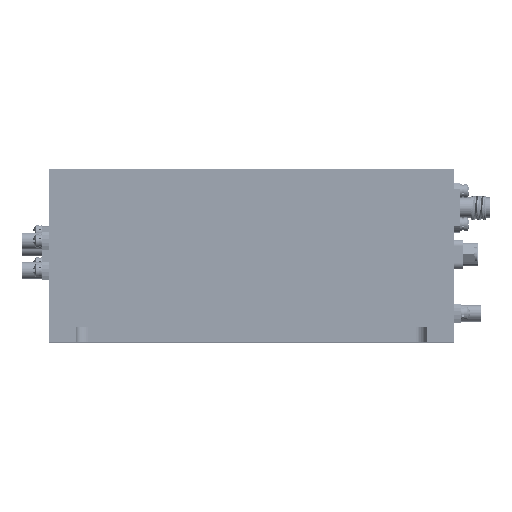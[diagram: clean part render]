
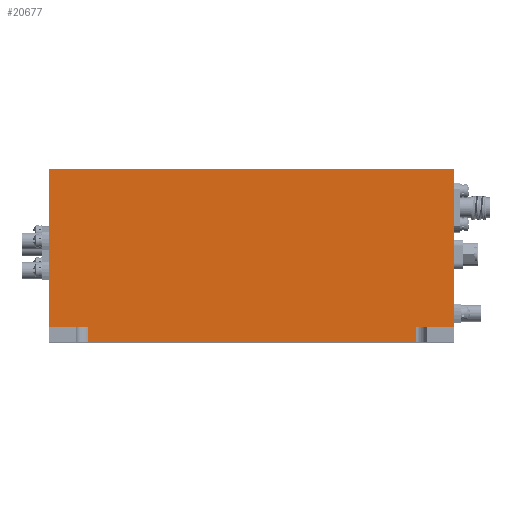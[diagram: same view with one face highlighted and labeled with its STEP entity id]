
A CAD part, top view. The second image highlights one B-rep face of the part: STEP entity #20677.
In plain terms, the highlighted planar face has unit normal (0, 0, 1).
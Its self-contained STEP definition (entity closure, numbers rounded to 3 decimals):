
#37 = CARTESIAN_POINT ( 'NONE',  ( 10., 0., -7. ) ) ;
#177 = VERTEX_POINT ( 'NONE', #18048 ) ;
#592 = DIRECTION ( 'NONE',  ( -1., 0., 0. ) ) ;
#1800 = VERTEX_POINT ( 'NONE', #19192 ) ;
#1804 = EDGE_CURVE ( 'NONE', #13800, #1800, #5766, .T. ) ;
#2056 = LINE ( 'NONE', #28406, #21170 ) ;
#3674 = DIRECTION ( 'NONE',  ( -1., 0., 0. ) ) ;
#3913 = CARTESIAN_POINT ( 'NONE',  ( 0., 4., -7. ) ) ;
#4035 = DIRECTION ( 'NONE',  ( -1., 0., 0. ) ) ;
#4654 = VECTOR ( 'NONE', #10200, 1000. ) ;
#4808 = DIRECTION ( 'NONE',  ( -1., 0., 0. ) ) ;
#4919 = ORIENTED_EDGE ( 'NONE', *, *, #22573, .T. ) ;
#5275 = CARTESIAN_POINT ( 'NONE',  ( 10., 4., -7. ) ) ;
#5766 = LINE ( 'NONE', #16463, #9320 ) ;
#5867 = AXIS2_PLACEMENT_3D ( 'NONE', #22313, #25059, #4035 ) ;
#6318 = LINE ( 'NONE', #3913, #25835 ) ;
#6760 = VECTOR ( 'NONE', #8984, 1000. ) ;
#7548 = VECTOR ( 'NONE', #592, 1000. ) ;
#7779 = ORIENTED_EDGE ( 'NONE', *, *, #18114, .T. ) ;
#8178 = CARTESIAN_POINT ( 'NONE',  ( 95., 0., -7. ) ) ;
#8480 = EDGE_CURVE ( 'NONE', #177, #18084, #2056, .T. ) ;
#8984 = DIRECTION ( 'NONE',  ( 0., 1., 0. ) ) ;
#9024 = LINE ( 'NONE', #22118, #7548 ) ;
#9320 = VECTOR ( 'NONE', #3674, 1000. ) ;
#9632 = CARTESIAN_POINT ( 'NONE',  ( 105., 4., -7. ) ) ;
#10200 = DIRECTION ( 'NONE',  ( 0., 1., 0. ) ) ;
#10224 = DIRECTION ( 'NONE',  ( 0., 1., 0. ) ) ;
#10328 = ORIENTED_EDGE ( 'NONE', *, *, #22751, .F. ) ;
#10563 = CARTESIAN_POINT ( 'NONE',  ( 0., 4., -7. ) ) ;
#11002 = EDGE_CURVE ( 'NONE', #12742, #1800, #6318, .T. ) ;
#11394 = VECTOR ( 'NONE', #10224, 1000. ) ;
#12742 = VERTEX_POINT ( 'NONE', #22900 ) ;
#13665 = CARTESIAN_POINT ( 'NONE',  ( 95., 4., -7. ) ) ;
#13757 = ORIENTED_EDGE ( 'NONE', *, *, #32326, .F. ) ;
#13800 = VERTEX_POINT ( 'NONE', #15620 ) ;
#14346 = CARTESIAN_POINT ( 'NONE',  ( 10., 0., -7. ) ) ;
#14457 = DIRECTION ( 'NONE',  ( 0., 1., 0. ) ) ;
#15620 = CARTESIAN_POINT ( 'NONE',  ( 105., 45., -7. ) ) ;
#15736 = LINE ( 'NONE', #37, #4654 ) ;
#16463 = CARTESIAN_POINT ( 'NONE',  ( 10., 45., -7. ) ) ;
#16742 = LINE ( 'NONE', #27229, #6760 ) ;
#18048 = CARTESIAN_POINT ( 'NONE',  ( 95., 0., -7. ) ) ;
#18084 = VERTEX_POINT ( 'NONE', #14346 ) ;
#18114 = EDGE_CURVE ( 'NONE', #28549, #13800, #16742, .T. ) ;
#18854 = VERTEX_POINT ( 'NONE', #5275 ) ;
#19192 = CARTESIAN_POINT ( 'NONE',  ( 0., 45., -7. ) ) ;
#20521 = FACE_OUTER_BOUND ( 'NONE', #29026, .T. ) ;
#20677 = ADVANCED_FACE ( 'NONE', ( #20521 ), #23268, .F. ) ;
#21170 = VECTOR ( 'NONE', #4808, 1000. ) ;
#22118 = CARTESIAN_POINT ( 'NONE',  ( 0., 4., -7. ) ) ;
#22313 = CARTESIAN_POINT ( 'NONE',  ( 10., 0., -7. ) ) ;
#22573 = EDGE_CURVE ( 'NONE', #177, #26439, #26262, .T. ) ;
#22583 = ORIENTED_EDGE ( 'NONE', *, *, #8480, .F. ) ;
#22751 = EDGE_CURVE ( 'NONE', #18854, #12742, #9024, .T. ) ;
#22900 = CARTESIAN_POINT ( 'NONE',  ( 0., 4., -7. ) ) ;
#23126 = DIRECTION ( 'NONE',  ( 1., 0., 0. ) ) ;
#23268 = PLANE ( 'NONE',  #5867 ) ;
#24457 = ORIENTED_EDGE ( 'NONE', *, *, #1804, .T. ) ;
#25059 = DIRECTION ( 'NONE',  ( 0., 0., -1. ) ) ;
#25835 = VECTOR ( 'NONE', #14457, 1000. ) ;
#26262 = LINE ( 'NONE', #8178, #11394 ) ;
#26418 = LINE ( 'NONE', #10563, #28880 ) ;
#26439 = VERTEX_POINT ( 'NONE', #13665 ) ;
#27229 = CARTESIAN_POINT ( 'NONE',  ( 105., 4., -7. ) ) ;
#28406 = CARTESIAN_POINT ( 'NONE',  ( 10., 0., -7. ) ) ;
#28549 = VERTEX_POINT ( 'NONE', #9632 ) ;
#28880 = VECTOR ( 'NONE', #23126, 1000. ) ;
#29026 = EDGE_LOOP ( 'NONE', ( #24457, #32190, #10328, #13757, #22583, #4919, #31899, #7779 ) ) ;
#31899 = ORIENTED_EDGE ( 'NONE', *, *, #32311, .T. ) ;
#32190 = ORIENTED_EDGE ( 'NONE', *, *, #11002, .F. ) ;
#32311 = EDGE_CURVE ( 'NONE', #26439, #28549, #26418, .T. ) ;
#32326 = EDGE_CURVE ( 'NONE', #18084, #18854, #15736, .T. ) ;
